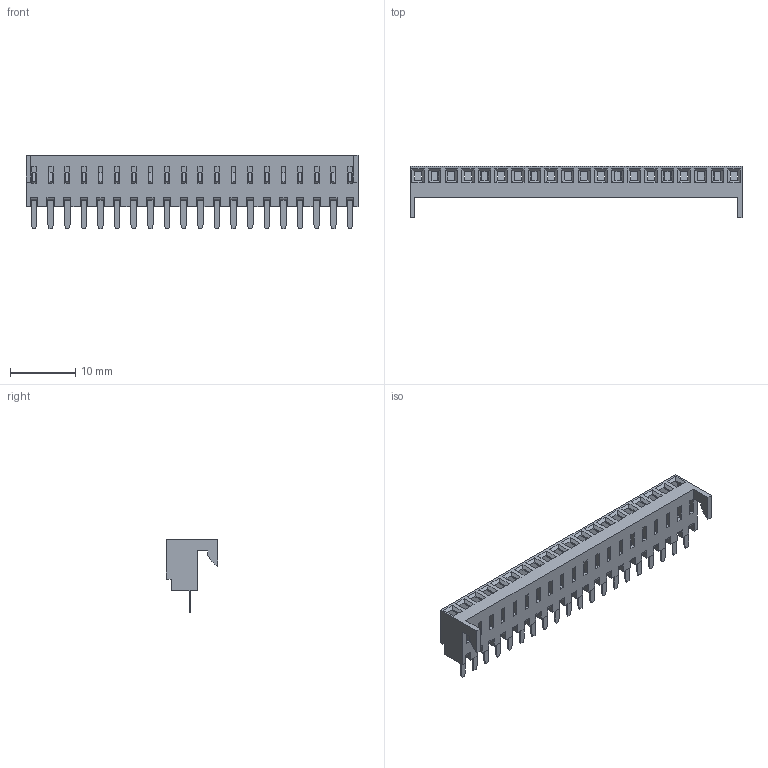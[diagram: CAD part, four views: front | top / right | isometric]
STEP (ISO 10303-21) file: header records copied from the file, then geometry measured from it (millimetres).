
FILE_DESCRIPTION((''),'2;1');
FILE_NAME('022182201','2014-10-13T',('me'),(''),'PRO/ENGINEER BY PARAMETRIC TECHNOLOGY CORPORATION, 2011490','PRO/ENGINEER BY PARAMETRIC TECHNOLOGY CORPORATION, 2011490','');
FILE_SCHEMA(('CONFIG_CONTROL_DESIGN'));
Length unit declared in the file: inch
Products named in the file (1): 022182201
Bounding box: 50.7 x 7.8 x 11.23 mm (x, y, z)
Volume: 741.1 mm3; surface area: 2735.6 mm2
Topology: 1 solids, 1 shells, 846 faces, 2390 edges, 1566 vertices
Faces by surface type: plane 702, cylinder 144
Entity records: 27035 total; most frequent: CARTESIAN_POINT 4763, ORIENTED_EDGE 4700, DIRECTION 4412, EDGE_CURVE 2350, VECTOR 2062, LINE 2062, VERTEX_POINT 1526, AXIS2_PLACEMENT_3D 1175
